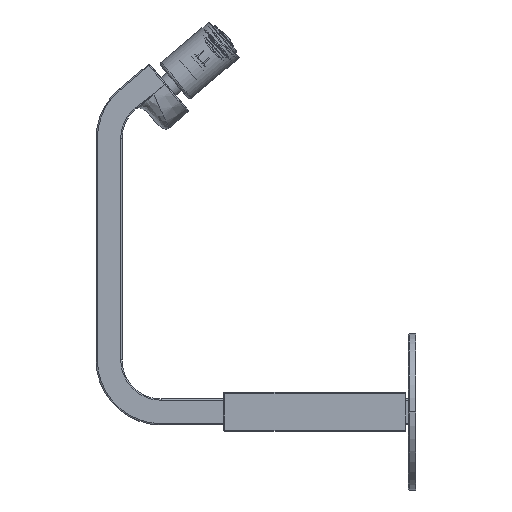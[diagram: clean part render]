
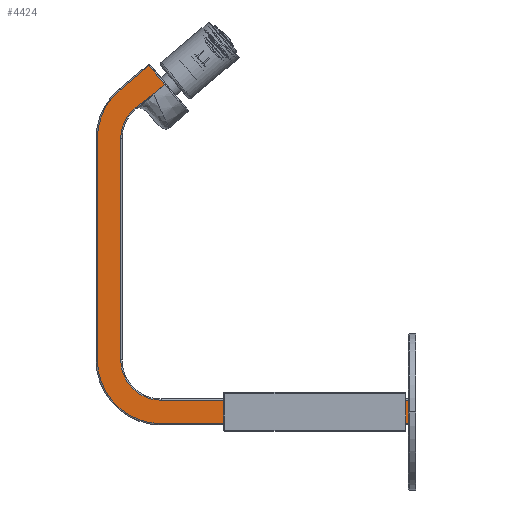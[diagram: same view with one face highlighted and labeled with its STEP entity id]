
A CAD part, left-side view. The second image highlights one B-rep face of the part: STEP entity #4424.
In plain terms, the highlighted planar face has unit normal (-1, 0, 0).
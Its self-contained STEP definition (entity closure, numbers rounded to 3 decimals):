
#207=DIRECTION('',(0.,-1.,0.));
#208=VECTOR('',#207,95.);
#209=CARTESIAN_POINT('',(-15.,98.,-4.5));
#210=LINE('',#209,#208);
#211=CARTESIAN_POINT('',(-15.,98.,20.));
#212=DIRECTION('',(-1.,0.,0.));
#213=DIRECTION('',(0.,1.,0.));
#214=AXIS2_PLACEMENT_3D('',#211,#212,#213);
#216=DIRECTION('',(0.,0.,-1.));
#217=VECTOR('',#216,85.037);
#218=CARTESIAN_POINT('',(-15.,122.5,105.037));
#219=LINE('',#218,#217);
#220=CARTESIAN_POINT('',(-15.,98.,105.037));
#221=DIRECTION('',(-1.,0.,0.));
#222=DIRECTION('',(0.,0.643,0.766));
#223=AXIS2_PLACEMENT_3D('',#220,#221,#222);
#225=DIRECTION('',(0.,0.766,-0.643));
#226=VECTOR('',#225,14.5);
#227=CARTESIAN_POINT('',(-15.,102.641,133.126));
#228=LINE('',#227,#226);
#229=DIRECTION('',(0.,-0.643,-0.766));
#230=VECTOR('',#229,9.5);
#231=CARTESIAN_POINT('',(-15.,102.641,133.126));
#232=LINE('',#231,#230);
#233=CARTESIAN_POINT('',(-15.,96.534,125.848));
#234=CARTESIAN_POINT('',(-15.,96.996,125.461));
#235=CARTESIAN_POINT('',(-15.,97.931,124.682));
#236=CARTESIAN_POINT('',(-15.,99.366,123.491));
#237=CARTESIAN_POINT('',(-15.,100.34,122.685));
#238=CARTESIAN_POINT('',(-15.,100.832,122.279));
#240=CARTESIAN_POINT('',(-15.,100.832,122.279));
#241=CARTESIAN_POINT('',(-15.,101.364,121.839));
#242=CARTESIAN_POINT('',(-15.,102.393,121.035));
#243=CARTESIAN_POINT('',(-15.,103.746,119.987));
#244=CARTESIAN_POINT('',(-15.,104.972,119.082));
#245=CARTESIAN_POINT('',(-15.,106.087,118.294));
#246=CARTESIAN_POINT('',(-15.,107.096,117.604));
#247=CARTESIAN_POINT('',(-15.,107.689,117.141));
#248=CARTESIAN_POINT('',(-15.,107.963,116.911));
#250=CARTESIAN_POINT('',(-15.,98.,105.037));
#251=DIRECTION('',(-1.,0.,0.));
#252=DIRECTION('',(0.,0.643,0.766));
#253=AXIS2_PLACEMENT_3D('',#250,#251,#252);
#255=DIRECTION('',(0.,0.,-1.));
#256=VECTOR('',#255,85.037);
#257=CARTESIAN_POINT('',(-15.,113.5,105.037));
#258=LINE('',#257,#256);
#259=CARTESIAN_POINT('',(-15.,98.,20.));
#260=DIRECTION('',(-1.,0.,0.));
#261=DIRECTION('',(0.,1.,0.));
#262=AXIS2_PLACEMENT_3D('',#259,#260,#261);
#264=DIRECTION('',(0.,-1.,0.));
#265=VECTOR('',#264,95.);
#266=CARTESIAN_POINT('',(-15.,98.,4.5));
#267=LINE('',#266,#265);
#305=DIRECTION('',(0.,0.,-1.));
#306=VECTOR('',#305,9.);
#307=CARTESIAN_POINT('',(-15.,3.,4.5));
#308=LINE('',#307,#306);
#589=CARTESIAN_POINT('',(-15.,96.534,125.848));
#3250=CARTESIAN_POINT('',(-15.,113.5,20.));
#3251=CARTESIAN_POINT('',(-15.,98.,4.5));
#3252=VERTEX_POINT('',#3250);
#3253=VERTEX_POINT('',#3251);
#3256=VERTEX_POINT('',#240);
#3257=VERTEX_POINT('',#248);
#3258=CARTESIAN_POINT('',(-15.,122.5,20.));
#3259=CARTESIAN_POINT('',(-15.,98.,-4.5));
#3260=VERTEX_POINT('',#3258);
#3261=VERTEX_POINT('',#3259);
#3266=CARTESIAN_POINT('',(-15.,122.5,105.037));
#3267=VERTEX_POINT('',#3266);
#3273=VERTEX_POINT('',#589);
#3283=CARTESIAN_POINT('',(-15.,102.641,133.126));
#3284=VERTEX_POINT('',#3283);
#3302=CARTESIAN_POINT('',(-15.,113.5,105.037));
#3303=VERTEX_POINT('',#3302);
#3304=CARTESIAN_POINT('',(-15.,113.748,123.805));
#3305=VERTEX_POINT('',#3304);
#3324=CARTESIAN_POINT('',(-15.,3.,4.5));
#3325=CARTESIAN_POINT('',(-15.,3.,-4.5));
#3326=VERTEX_POINT('',#3324);
#3327=VERTEX_POINT('',#3325);
#4392=CARTESIAN_POINT('',(-15.,3.,-5.));
#4393=DIRECTION('',(-1.,0.,0.));
#4394=DIRECTION('',(0.,0.,1.));
#4395=AXIS2_PLACEMENT_3D('',#4392,#4393,#4394);
#4396=PLANE('',#4395);
#4398=ORIENTED_EDGE('',*,*,#4397,.T.);
#4400=ORIENTED_EDGE('',*,*,#4399,.F.);
#4402=ORIENTED_EDGE('',*,*,#4401,.F.);
#4404=ORIENTED_EDGE('',*,*,#4403,.F.);
#4406=ORIENTED_EDGE('',*,*,#4405,.F.);
#4408=ORIENTED_EDGE('',*,*,#4407,.F.);
#4409=ORIENTED_EDGE('',*,*,#4383,.T.);
#4411=ORIENTED_EDGE('',*,*,#4410,.T.);
#4413=ORIENTED_EDGE('',*,*,#4412,.T.);
#4415=ORIENTED_EDGE('',*,*,#4414,.T.);
#4417=ORIENTED_EDGE('',*,*,#4416,.T.);
#4419=ORIENTED_EDGE('',*,*,#4418,.T.);
#4421=ORIENTED_EDGE('',*,*,#4420,.T.);
#4422=EDGE_LOOP('',(#4398,#4400,#4402,#4404,#4406,#4408,#4409,#4411,#4413,#4415,
#4417,#4419,#4421));
#4423=FACE_OUTER_BOUND('',#4422,.F.);
#4424=ADVANCED_FACE('',(#4423),#4396,.T.);
#215=CIRCLE('',#214,24.5);
#224=CIRCLE('',#223,24.5);
#239=B_SPLINE_CURVE_WITH_KNOTS('',3,(#233,#234,#235,#236,#237,#238),
.UNSPECIFIED.,.F.,.F.,(4,1,1,4),(0.,0.333,0.667,1.),
.UNSPECIFIED.);
#249=B_SPLINE_CURVE_WITH_KNOTS('',3,(#240,#241,#242,#243,#244,#245,#246,#247,
#248),.UNSPECIFIED.,.F.,.F.,(4,1,1,1,1,1,4),(0.,0.167,
0.333,0.5,0.667,0.833,1.),
.UNSPECIFIED.);
#254=CIRCLE('',#253,15.5);
#263=CIRCLE('',#262,15.5);
#4383=EDGE_CURVE('',#3284,#3273,#232,.T.);
#4397=EDGE_CURVE('',#3326,#3327,#308,.T.);
#4399=EDGE_CURVE('',#3261,#3327,#210,.T.);
#4401=EDGE_CURVE('',#3260,#3261,#215,.T.);
#4403=EDGE_CURVE('',#3267,#3260,#219,.T.);
#4405=EDGE_CURVE('',#3305,#3267,#224,.T.);
#4407=EDGE_CURVE('',#3284,#3305,#228,.T.);
#4410=EDGE_CURVE('',#3273,#3256,#239,.T.);
#4412=EDGE_CURVE('',#3256,#3257,#249,.T.);
#4414=EDGE_CURVE('',#3257,#3303,#254,.T.);
#4416=EDGE_CURVE('',#3303,#3252,#258,.T.);
#4418=EDGE_CURVE('',#3252,#3253,#263,.T.);
#4420=EDGE_CURVE('',#3253,#3326,#267,.T.);
